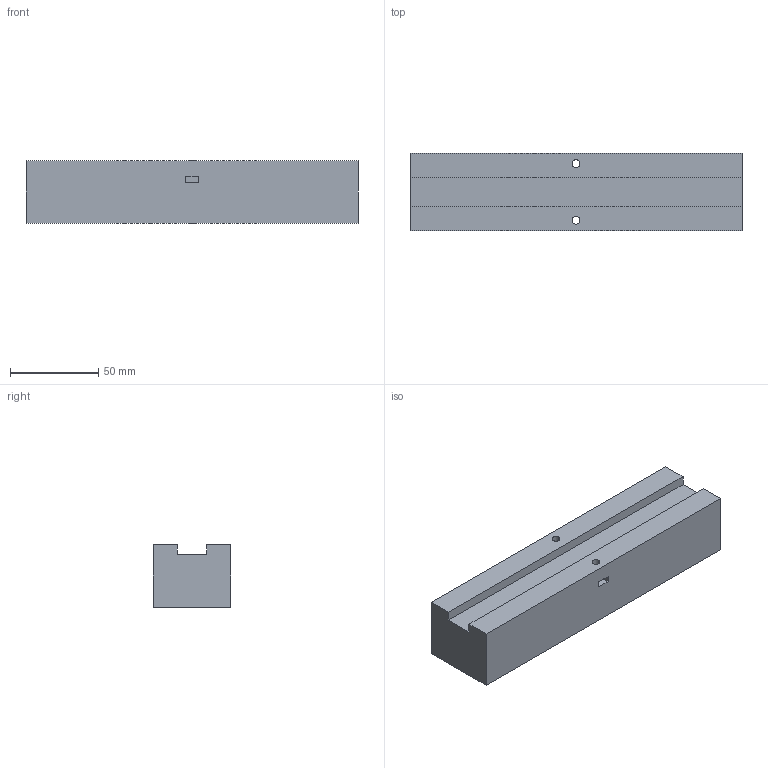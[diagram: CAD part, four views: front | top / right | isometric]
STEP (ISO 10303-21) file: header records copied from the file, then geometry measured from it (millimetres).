
FILE_DESCRIPTION (( 'STEP AP203' ), '1' );
FILE_NAME ('08_fixed_riser_30.step', '2026-10-22T14:08:07', ( '' ), ( '' ), 'SwSTEP 2.0', 'SolidWorks 2025', '' );
FILE_SCHEMA (( 'CONFIG_CONTROL_DESIGN' ));
Length unit declared in the file: millimetre
Products named in the file (1): 08_fixed_riser_30
Bounding box: 188 x 44 x 35.5 mm (x, y, z)
Volume: 274949.9 mm3; surface area: 36121.7 mm2
Topology: 1 solids, 1 shells, 28 faces, 72 edges, 48 vertices
Faces by surface type: plane 20, cylinder 8
Entity records: 945 total; most frequent: CARTESIAN_POINT 149, DIRECTION 146, ORIENTED_EDGE 144, EDGE_CURVE 72, VECTOR 56, LINE 56, VERTEX_POINT 48, AXIS2_PLACEMENT_3D 45
